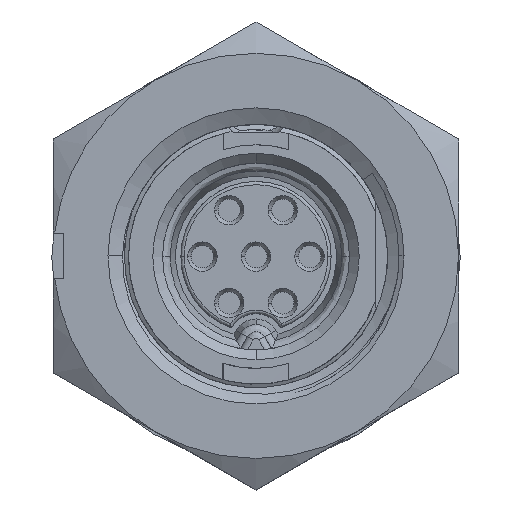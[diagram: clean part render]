
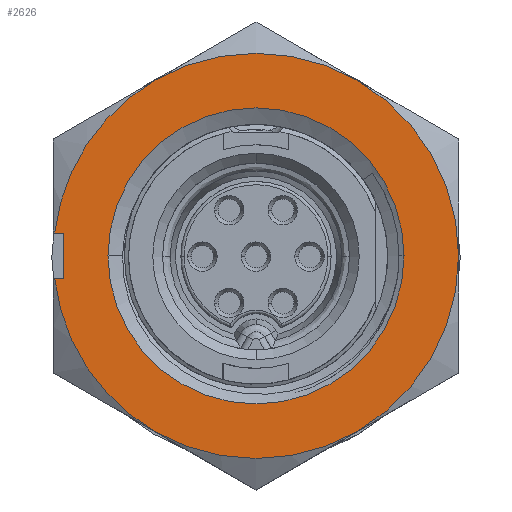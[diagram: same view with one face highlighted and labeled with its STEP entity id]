
A CAD part, top view. The second image highlights one B-rep face of the part: STEP entity #2626.
In plain terms, the highlighted planar face has unit normal (0, 0, 1).
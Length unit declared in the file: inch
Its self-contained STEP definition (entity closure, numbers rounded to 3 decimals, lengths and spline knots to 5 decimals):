
#784 = DIRECTION ( 'NONE',  ( -1., 0., 0. ) ) ;
#820 = DIRECTION ( 'NONE',  ( 0., 0., -1. ) ) ;
#879 = CARTESIAN_POINT ( 'NONE',  ( 0.62, 0., 1.14 ) ) ;
#1139 = PLANE ( 'NONE',  #44391 ) ;
#1735 = ORIENTED_EDGE ( 'NONE', *, *, #4458, .F. ) ;
#2626 = ADVANCED_FACE ( 'NONE', ( #8204, #12887 ), #1139, .F. ) ;
#3660 = AXIS2_PLACEMENT_3D ( 'NONE', #8382, #34084, #12130 ) ;
#4388 = CARTESIAN_POINT ( 'NONE',  ( -0.295, -0.035, 1.14 ) ) ;
#4458 = EDGE_CURVE ( 'NONE', #15743, #18331, #46072, .T. ) ;
#4564 = LINE ( 'NONE', #15622, #7011 ) ;
#5167 = DIRECTION ( 'NONE',  ( -1., 0., 0. ) ) ;
#5330 = VERTEX_POINT ( 'NONE', #41193 ) ;
#6189 = EDGE_CURVE ( 'NONE', #24207, #14881, #40597, .T. ) ;
#6598 = VERTEX_POINT ( 'NONE', #26448 ) ;
#7011 = VECTOR ( 'NONE', #15422, 39.37008 ) ;
#7234 = CARTESIAN_POINT ( 'NONE',  ( 0., 0., 1.14 ) ) ;
#7390 = VECTOR ( 'NONE', #16771, 39.37008 ) ;
#8131 = VECTOR ( 'NONE', #45093, 39.37008 ) ;
#8204 = FACE_OUTER_BOUND ( 'NONE', #12047, .T. ) ;
#8382 = CARTESIAN_POINT ( 'NONE',  ( 0., 0., 1.14 ) ) ;
#8484 = CARTESIAN_POINT ( 'NONE',  ( 0.2265, 0., 1.14 ) ) ;
#8699 = ORIENTED_EDGE ( 'NONE', *, *, #34023, .T. ) ;
#9403 = DIRECTION ( 'NONE',  ( 0., 0., -1. ) ) ;
#9671 = DIRECTION ( 'NONE',  ( -1., 0., 0. ) ) ;
#10698 = CIRCLE ( 'NONE', #41139, 0.31 ) ;
#12047 = EDGE_LOOP ( 'NONE', ( #18192, #8699, #16849, #40119, #41783, #20168, #24747, #1735, #17393 ) ) ;
#12065 = DIRECTION ( 'NONE',  ( 0., 0., -1. ) ) ;
#12130 = DIRECTION ( 'NONE',  ( 1., 0., 0. ) ) ;
#12887 = FACE_BOUND ( 'NONE', #27565, .T. ) ;
#14881 = VERTEX_POINT ( 'NONE', #20587 ) ;
#15109 = CARTESIAN_POINT ( 'NONE',  ( 0.155, -0.26847, 1.14 ) ) ;
#15387 = CIRCLE ( 'NONE', #30519, 0.2265 ) ;
#15422 = DIRECTION ( 'NONE',  ( 0., -1., 0. ) ) ;
#15622 = CARTESIAN_POINT ( 'NONE',  ( -0.295, -0.035, 1.14 ) ) ;
#15743 = VERTEX_POINT ( 'NONE', #35700 ) ;
#16414 = EDGE_CURVE ( 'NONE', #14881, #6598, #25482, .T. ) ;
#16725 = CARTESIAN_POINT ( 'NONE',  ( 0.155, 0.26847, 1.14 ) ) ;
#16771 = DIRECTION ( 'NONE',  ( -1., 0., 0. ) ) ;
#16849 = ORIENTED_EDGE ( 'NONE', *, *, #37521, .T. ) ;
#16880 = DIRECTION ( 'NONE',  ( -1., 0., 0. ) ) ;
#16892 = CARTESIAN_POINT ( 'NONE',  ( 0.62, 0.035, 1.14 ) ) ;
#16933 = DIRECTION ( 'NONE',  ( 0., 0., -1. ) ) ;
#16941 = CARTESIAN_POINT ( 'NONE',  ( 0., 0., 1.14 ) ) ;
#17393 = ORIENTED_EDGE ( 'NONE', *, *, #23197, .F. ) ;
#17639 = CARTESIAN_POINT ( 'NONE',  ( -0.295, 0.035, 1.14 ) ) ;
#18190 = LINE ( 'NONE', #45154, #8131 ) ;
#18192 = ORIENTED_EDGE ( 'NONE', *, *, #18357, .F. ) ;
#18331 = VERTEX_POINT ( 'NONE', #16725 ) ;
#18357 = EDGE_CURVE ( 'NONE', #37227, #32275, #19875, .T. ) ;
#19875 = LINE ( 'NONE', #16892, #7390 ) ;
#20168 = ORIENTED_EDGE ( 'NONE', *, *, #46291, .F. ) ;
#20587 = CARTESIAN_POINT ( 'NONE',  ( -0.155, -0.26847, 1.14 ) ) ;
#20807 = AXIS2_PLACEMENT_3D ( 'NONE', #16941, #16933, #16880 ) ;
#23197 = EDGE_CURVE ( 'NONE', #32275, #15743, #38291, .T. ) ;
#24207 = VERTEX_POINT ( 'NONE', #15109 ) ;
#24747 = ORIENTED_EDGE ( 'NONE', *, *, #38164, .F. ) ;
#25482 = CIRCLE ( 'NONE', #20807, 0.31 ) ;
#26112 = CIRCLE ( 'NONE', #3660, 0.2265 ) ;
#26448 = CARTESIAN_POINT ( 'NONE',  ( -0.30802, -0.035, 1.14 ) ) ;
#27077 = DIRECTION ( 'NONE',  ( 0., 0., -1. ) ) ;
#27126 = ORIENTED_EDGE ( 'NONE', *, *, #28814, .F. ) ;
#27565 = EDGE_LOOP ( 'NONE', ( #37545, #27126 ) ) ;
#28814 = EDGE_CURVE ( 'NONE', #5330, #29686, #15387, .T. ) ;
#28981 = DIRECTION ( 'NONE',  ( -1., 0., 0. ) ) ;
#29030 = DIRECTION ( 'NONE',  ( 0., 0., -1. ) ) ;
#29079 = CARTESIAN_POINT ( 'NONE',  ( 0., 0., 1.14 ) ) ;
#29686 = VERTEX_POINT ( 'NONE', #8484 ) ;
#30519 = AXIS2_PLACEMENT_3D ( 'NONE', #30790, #30743, #30736 ) ;
#30736 = DIRECTION ( 'NONE',  ( 1., 0., 0. ) ) ;
#30743 = DIRECTION ( 'NONE',  ( 0., 0., 1. ) ) ;
#30790 = CARTESIAN_POINT ( 'NONE',  ( 0., 0., 1.14 ) ) ;
#31286 = DIRECTION ( 'NONE',  ( -1., 0., 0. ) ) ;
#31292 = DIRECTION ( 'NONE',  ( 0., 0., -1. ) ) ;
#31343 = CARTESIAN_POINT ( 'NONE',  ( 0., 0., 1.14 ) ) ;
#32015 = AXIS2_PLACEMENT_3D ( 'NONE', #31343, #31292, #31286 ) ;
#32275 = VERTEX_POINT ( 'NONE', #37239 ) ;
#32689 = CIRCLE ( 'NONE', #45675, 0.31 ) ;
#32806 = CARTESIAN_POINT ( 'NONE',  ( 0.31, 0., 1.14 ) ) ;
#34023 = EDGE_CURVE ( 'NONE', #37227, #39936, #4564, .T. ) ;
#34030 = CARTESIAN_POINT ( 'NONE',  ( 0., 0., 1.14 ) ) ;
#34084 = DIRECTION ( 'NONE',  ( 0., 0., 1. ) ) ;
#35700 = CARTESIAN_POINT ( 'NONE',  ( -0.155, 0.26847, 1.14 ) ) ;
#37227 = VERTEX_POINT ( 'NONE', #17639 ) ;
#37239 = CARTESIAN_POINT ( 'NONE',  ( -0.30802, 0.035, 1.14 ) ) ;
#37521 = EDGE_CURVE ( 'NONE', #39936, #6598, #18190, .T. ) ;
#37545 = ORIENTED_EDGE ( 'NONE', *, *, #43235, .F. ) ;
#37705 = DIRECTION ( 'NONE',  ( -1., 0., 0. ) ) ;
#37912 = VERTEX_POINT ( 'NONE', #32806 ) ;
#38164 = EDGE_CURVE ( 'NONE', #18331, #37912, #10698, .T. ) ;
#38291 = CIRCLE ( 'NONE', #44950, 0.31 ) ;
#39496 = AXIS2_PLACEMENT_3D ( 'NONE', #7234, #9403, #9671 ) ;
#39936 = VERTEX_POINT ( 'NONE', #4388 ) ;
#40119 = ORIENTED_EDGE ( 'NONE', *, *, #16414, .F. ) ;
#40597 = CIRCLE ( 'NONE', #32015, 0.31 ) ;
#41139 = AXIS2_PLACEMENT_3D ( 'NONE', #41324, #27077, #5167 ) ;
#41193 = CARTESIAN_POINT ( 'NONE',  ( -0.2265, 0., 1.14 ) ) ;
#41324 = CARTESIAN_POINT ( 'NONE',  ( 0., 0., 1.14 ) ) ;
#41783 = ORIENTED_EDGE ( 'NONE', *, *, #6189, .F. ) ;
#43235 = EDGE_CURVE ( 'NONE', #29686, #5330, #26112, .T. ) ;
#44391 = AXIS2_PLACEMENT_3D ( 'NONE', #879, #820, #784 ) ;
#44950 = AXIS2_PLACEMENT_3D ( 'NONE', #29079, #29030, #28981 ) ;
#45093 = DIRECTION ( 'NONE',  ( -1., 0., 0. ) ) ;
#45154 = CARTESIAN_POINT ( 'NONE',  ( -0.35188, -0.035, 1.14 ) ) ;
#45675 = AXIS2_PLACEMENT_3D ( 'NONE', #34030, #12065, #37705 ) ;
#46072 = CIRCLE ( 'NONE', #39496, 0.31 ) ;
#46291 = EDGE_CURVE ( 'NONE', #37912, #24207, #32689, .T. ) ;
